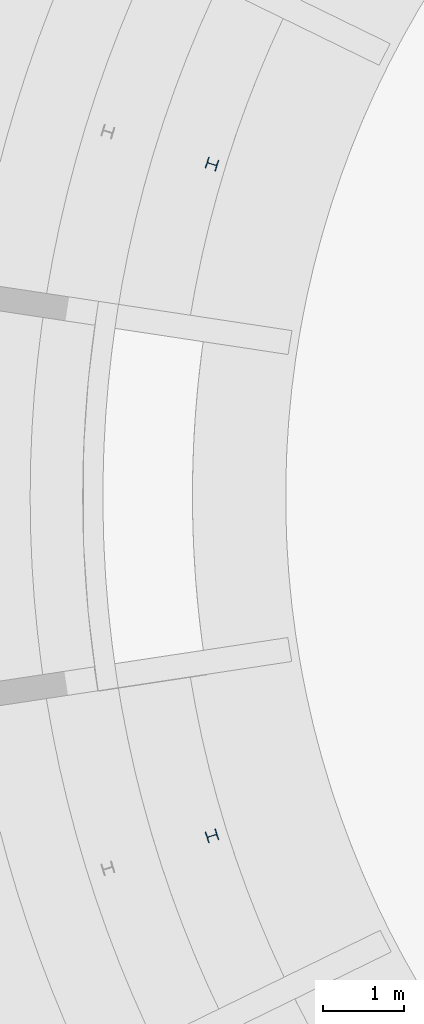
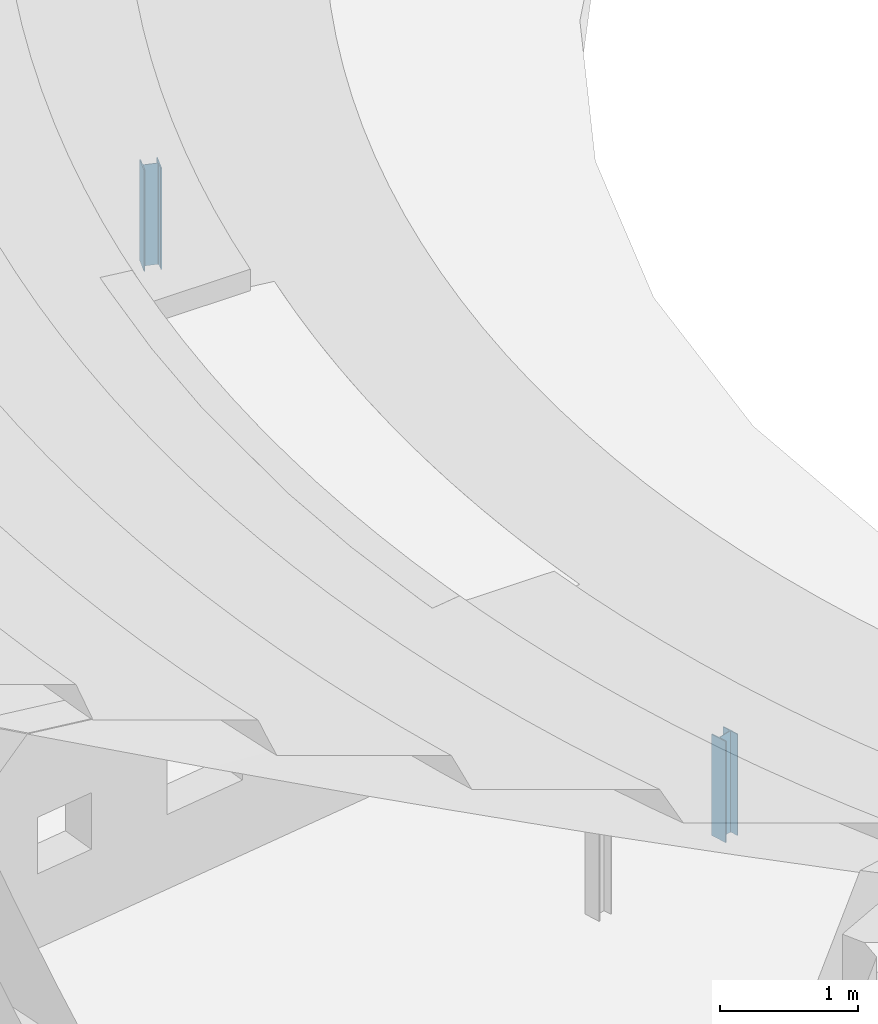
# One storey, part 11 of 34: 2 columns.
"""IFC2X3 building model written with IfcOpenShell, lengths in millimetres."""

from ifc_helpers import new_model, entity, si_unit, converted_unit, derived_unit, direction, frame, frame_2d, origin, place, context, subcontext, project, spatial, polyline, circle_curve, parameter, trimmed, segment, composite_curve, i_section, outline, extrude, source, transform, mapped, material, type_object, type_shapes, element, save


model = new_model("IFC2X3")

# Units and contexts
model_context = context("Model", 3, precision=0.01, world=origin(), true_north=direction((6.12303176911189e-17, 1.0)))
body_context = subcontext(model_context, "Body", "Model", "MODEL_VIEW")
ifc_project = project(units=[si_unit("LENGTHUNIT", "METRE", prefix="MILLI"), si_unit("AREAUNIT", "SQUARE_METRE", prefix="MILLI"), si_unit("VOLUMEUNIT", "CUBIC_METRE"), converted_unit("PLANEANGLEUNIT", "DEGREE", entity("IfcRatioMeasure", 0.0174532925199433), si_unit("PLANEANGLEUNIT", "RADIAN"), dimensions=[0, 0, 0, 0, 0, 0, 0]), si_unit("MASSUNIT", "GRAM", prefix="KILO"), derived_unit("MASSDENSITYUNIT", [(si_unit("MASSUNIT", "GRAM", prefix="KILO"), 1), (si_unit("LENGTHUNIT", "METRE"), -3)]), derived_unit("MOMENTOFINERTIAUNIT", [(si_unit("LENGTHUNIT", "METRE"), 4)]), si_unit("TIMEUNIT", "SECOND"), si_unit("FREQUENCYUNIT", "HERTZ"), si_unit("THERMODYNAMICTEMPERATUREUNIT", "DEGREE_CELSIUS"), derived_unit("THERMALTRANSMITTANCEUNIT", [(si_unit("MASSUNIT", "GRAM", prefix="KILO"), 1), (si_unit("THERMODYNAMICTEMPERATUREUNIT", "KELVIN"), -1), (si_unit("TIMEUNIT", "SECOND"), -3)]), derived_unit("VOLUMETRICFLOWRATEUNIT", [(si_unit("LENGTHUNIT", "METRE"), 3), (si_unit("TIMEUNIT", "SECOND"), -1)]), si_unit("ELECTRICCURRENTUNIT", "AMPERE"), si_unit("ELECTRICVOLTAGEUNIT", "VOLT"), si_unit("POWERUNIT", "WATT"), si_unit("FORCEUNIT", "NEWTON", prefix="KILO"), si_unit("ILLUMINANCEUNIT", "LUX"), si_unit("LUMINOUSFLUXUNIT", "LUMEN"), si_unit("LUMINOUSINTENSITYUNIT", "CANDELA"), derived_unit("USERDEFINED", [(si_unit("MASSUNIT", "GRAM", prefix="KILO"), -1), (si_unit("LENGTHUNIT", "METRE"), -2), (si_unit("TIMEUNIT", "SECOND"), 3), (si_unit("LUMINOUSFLUXUNIT", "LUMEN"), 1)]), derived_unit("LINEARVELOCITYUNIT", [(si_unit("LENGTHUNIT", "METRE"), 1), (si_unit("TIMEUNIT", "SECOND"), -1)]), si_unit("PRESSUREUNIT", "PASCAL"), derived_unit("USERDEFINED", [(si_unit("LENGTHUNIT", "METRE"), -2), (si_unit("MASSUNIT", "GRAM", prefix="KILO"), 1), (si_unit("TIMEUNIT", "SECOND"), -2)]), derived_unit("LINEARFORCEUNIT", [(si_unit("MASSUNIT", "GRAM", prefix="KILO"), 1), (si_unit("LENGTHUNIT", "METRE"), 1), (si_unit("TIMEUNIT", "SECOND"), -2), (si_unit("LENGTHUNIT", "METRE"), -1)]), derived_unit("PLANARFORCEUNIT", [(si_unit("MASSUNIT", "GRAM", prefix="KILO"), 1), (si_unit("LENGTHUNIT", "METRE"), 1), (si_unit("TIMEUNIT", "SECOND"), -2), (si_unit("LENGTHUNIT", "METRE"), -2)])], contexts=[model_context])

# Site, building, storey
site_placement = place(None, origin())
site = spatial("IfcSite", under=ifc_project, at=site_placement, Name="Theater aan de Parade", CompositionType="ELEMENT")
building_placement = place(site_placement, origin())
building = spatial("IfcBuilding", under=site, at=building_placement, Name="Theater aan de Parade", CompositionType="ELEMENT")
storey_placement = place(building_placement, frame((0.0, 0.0, 3.49116848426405e-09)))
storey = spatial("IfcBuildingStorey", under=building, at=storey_placement, Name="00 begane grond", CompositionType="ELEMENT", Elevation=3.49116848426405e-09)

# Columns
ifc_material = material(Name="00_PBT_MAT_staal")
column_type_1 = type_object("IfcColumnType", Name="28_PBT_SC_staal_H-profiel:HE140A_bestaand", PredefinedType="COLUMN", material=ifc_material)
shared_shape_1 = source(origin(), body_context, "Body", "SweptSolid", [
    extrude(outline(composite_curve([segment(polyline([(58.0, -70.0), (66.5000000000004, -70.0)]), True, "CONTINUOUS"), segment(polyline([(66.5000000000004, -70.0), (66.5000000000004, 70.0)]), True, "CONTINUOUS"), segment(polyline([(66.5000000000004, 70.0), (58.0, 70.0)]), True, "CONTINUOUS"), segment(polyline([(58.0, 70.0), (58.0, 14.75)]), True, "CONTINUOUS"), segment(trimmed(circle_curve(frame_2d((46.0, 14.75), x_axis=(1.0, 0.0)), 12.0), [parameter(269.999999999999)], [parameter(0.0)], True, "PARAMETER"), False, "CONTINUOUS"), segment(polyline([(46.0, 2.75000000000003), (-46.0, 2.75000000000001)]), True, "CONTINUOUS"), segment(trimmed(circle_curve(frame_2d((-46.0, 14.75), x_axis=(0.0, -1.0)), 12.0), [parameter(270.0)], [parameter(0.0)], True, "PARAMETER"), False, "CONTINUOUS"), segment(polyline([(-58.0, 14.75), (-58.0, 70.0)]), True, "CONTINUOUS"), segment(polyline([(-58.0, 70.0), (-66.4999999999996, 70.0)]), True, "CONTINUOUS"), segment(polyline([(-66.4999999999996, 70.0), (-66.4999999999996, -70.0)]), True, "CONTINUOUS"), segment(polyline([(-66.4999999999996, -70.0), (-58.0, -70.0)]), True, "CONTINUOUS"), segment(polyline([(-58.0, -70.0), (-58.0, -14.75)]), True, "CONTINUOUS"), segment(trimmed(circle_curve(frame_2d((-46.0, -14.75), x_axis=(-1.0, 0.0)), 12.0), [parameter(270.0)], [parameter(0.0)], True, "PARAMETER"), False, "CONTINUOUS"), segment(polyline([(-46.0, -2.74999999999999), (46.0, -2.74999999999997)]), True, "CONTINUOUS"), segment(trimmed(circle_curve(frame_2d((46.0, -14.75), x_axis=(0.0, 1.0)), 12.0), [parameter(270.0)], [parameter(0.0)], True, "PARAMETER"), False, "CONTINUOUS"), segment(polyline([(58.0, -14.75), (58.0, -70.0)]), True, "CONTINUOUS")], self_intersect=False)), frame((0.0, 0.0, -60.0), z_axis=(0.0, 0.0, 1.0), x_axis=(0.0, -1.0, 0.0)), (0.0, 0.0, 1.0), 894.999999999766),
])
type_shapes(column_type_1, [shared_shape_1])
column_1_placement = place(storey_placement, frame((58879.8203555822, 36565.0660362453, -3.49116848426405e-09), z_axis=(0.0, 0.0, 1.0), x_axis=(0.297378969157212, 0.954759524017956, 0.0)))
element("IfcColumn", 1, at=column_1_placement, inside=storey, type_object=column_type_1, material=ifc_material, Name="28_PBT_SC_staal_H-profiel:HE140A_bestaand", ObjectType="28_PBT_SC_staal_H-profiel:HE140A_bestaand", context=body_context, shape_type="MappedRepresentation", body=[
    mapped(shared_shape_1, transform((0.0, 0.0, 0.0), scale=1.0)),
])
column_type_2 = type_object("IfcColumnType", Name="28_PBT_SC_staal_H-profiel:HE140A_bestaand", PredefinedType="COLUMN", material=ifc_material)
shared_shape_2 = source(origin(), body_context, "Body", "SweptSolid", [
    extrude(i_section(OverallWidth=140.0, OverallDepth=133.0, WebThickness=5.49999999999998, FlangeThickness=8.49999999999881, FilletRadius=12.0, at=frame_2d((-3.97903932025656e-13, -1.4210854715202e-14), x_axis=(0.0, 1.0))), frame((0.0, 0.0, -60.0), z_axis=(0.0, 0.0, 1.0), x_axis=(0.0, -1.0, 0.0)), (0.0, 0.0, 1.0), 894.999999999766),
])
type_shapes(column_type_2, [shared_shape_2])
column_2_placement = place(storey_placement, frame((58879.8203555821, 28254.9339637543, -3.49116848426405e-09), z_axis=(0.0, 0.0, 1.0), x_axis=(0.297378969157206, -0.954759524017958, 0.0)))
element("IfcColumn", 2, at=column_2_placement, inside=storey, type_object=column_type_2, material=ifc_material, Name="28_PBT_SC_staal_H-profiel:HE140A_bestaand", ObjectType="28_PBT_SC_staal_H-profiel:HE140A_bestaand", context=body_context, shape_type="MappedRepresentation", body=[
    mapped(shared_shape_2, transform((0.0, 0.0, 0.0), scale=1.0)),
])

save(model, "model.ifc")
